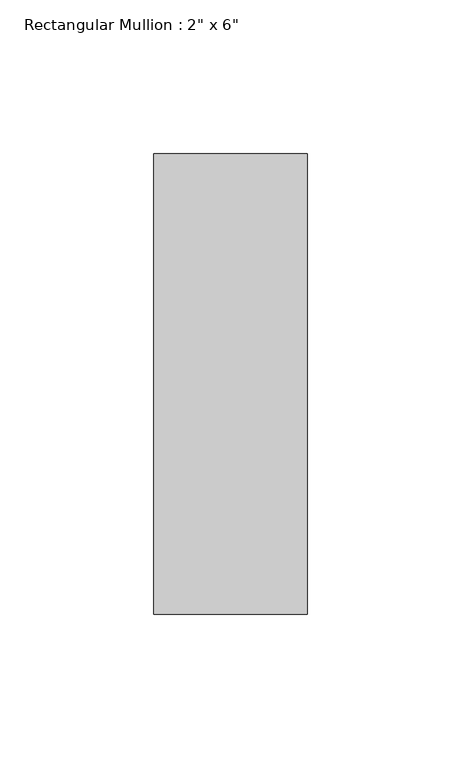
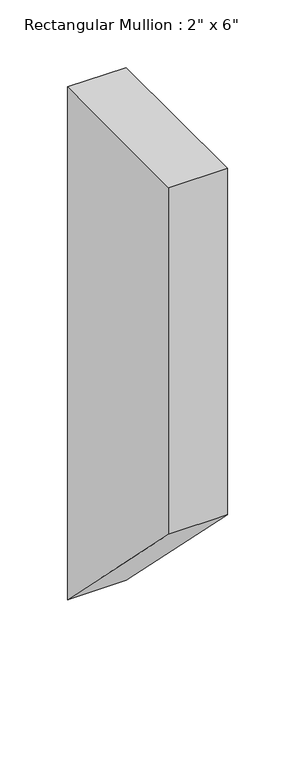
"""IFC4 building model written with IfcOpenShell, lengths in millimetres: member geometry."""

from ifc_helpers import new_model, si_unit, frame, origin, place, context, project, spatial, polyline, outline, extrude, source, transform, mapped, element, save


def member_02fa8d5b(model_context):
    return source(origin(), model_context, "Body", "SweptSolid", [
        extrude(outline(polyline([(-150.0, 0.0), (0.0, 0.0), (0.0, -462.9999995), (-150.0, -312.9999995), (-150.0, 0.0)])), frame((-25.0, 0.0, 0.0), z_axis=(1.0, 0.0, 0.0), x_axis=(0.0, 1.0, 0.0)), (0.0, 0.0, 1.0), 50.0),
    ])


if __name__ == "__main__":
    model = new_model("IFC4")
    model_context = context("Model", 3, world=origin())
    ifc_project = project(units=[si_unit("LENGTHUNIT", "METRE", prefix="MILLI")], contexts=[model_context])
    site = spatial("IfcSite", under=ifc_project)
    building = spatial("IfcBuilding", under=site)
    placement = place(None, origin())
    member_shape = member_02fa8d5b(model_context)
    element("IfcMember", 1, ObjectType="Rectangular Mullion : 2\" x 6\"", at=placement, inside=building, context=model_context, shape_type="MappedRepresentation", body=[
        mapped(member_shape, transform((0.0, 0.0, 0.0), x_axis=(1.0, 0.0, 0.0), y_axis=(0.0, 1.0, 0.0), z_axis=(0.0, 0.0, 1.0))),
    ])
    save(model, "model.ifc")
